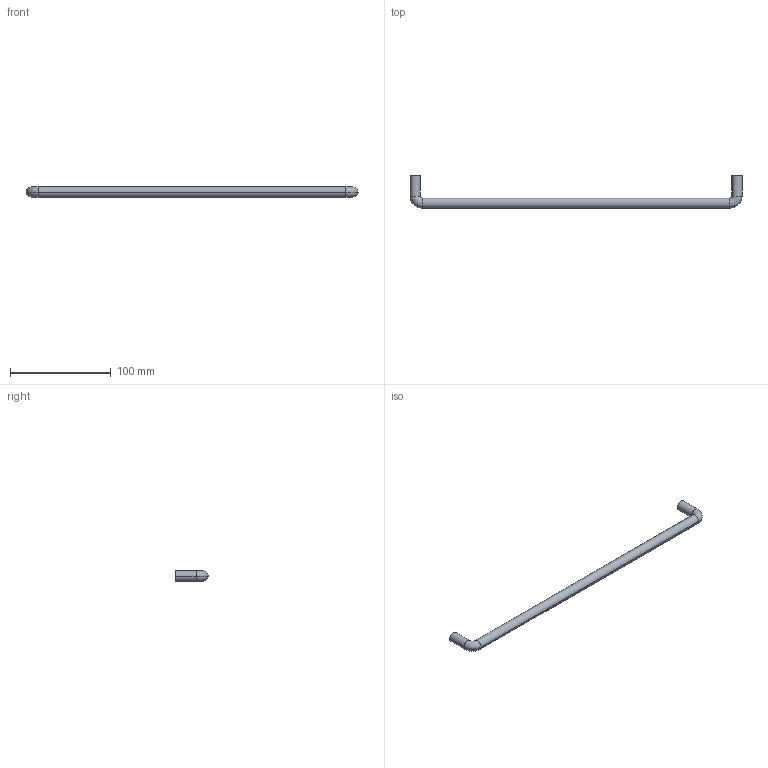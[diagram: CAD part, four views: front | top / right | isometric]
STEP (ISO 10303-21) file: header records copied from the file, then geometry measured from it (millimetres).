
FILE_DESCRIPTION( ( '' ), '1' );
FILE_NAME( 'C:/Documents and Settings/Sachin/Desktop/Sheet 10_1/stp/9069865.stp', '2013-10-22T08:18:18', ( '' ), ( '' ), ' ', ' ', ' ' );
FILE_SCHEMA( ( 'CONFIG_CONTROL_DESIGN' ) );
Length unit declared in the file: millimetre
Products named in the file (1): 1
Bounding box: 330 x 32 x 10 mm (x, y, z)
Volume: 28650.6 mm3; surface area: 11969.2 mm2
Topology: 1 solids, 1 shells, 18 faces, 34 edges, 20 vertices
Faces by surface type: cylinder 10, torus 4, plane 4
Entity records: 502 total; most frequent: DIRECTION 96, CARTESIAN_POINT 73, ORIENTED_EDGE 68, AXIS2_PLACEMENT_3D 43, EDGE_CURVE 34, CIRCLE 24, EDGE_LOOP 20, VERTEX_POINT 20
